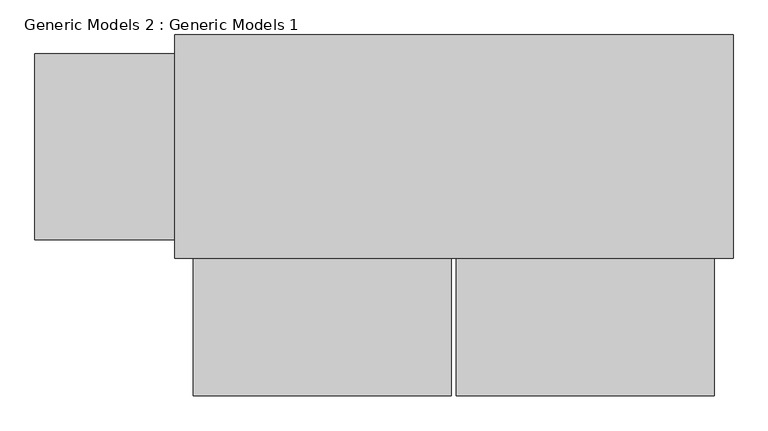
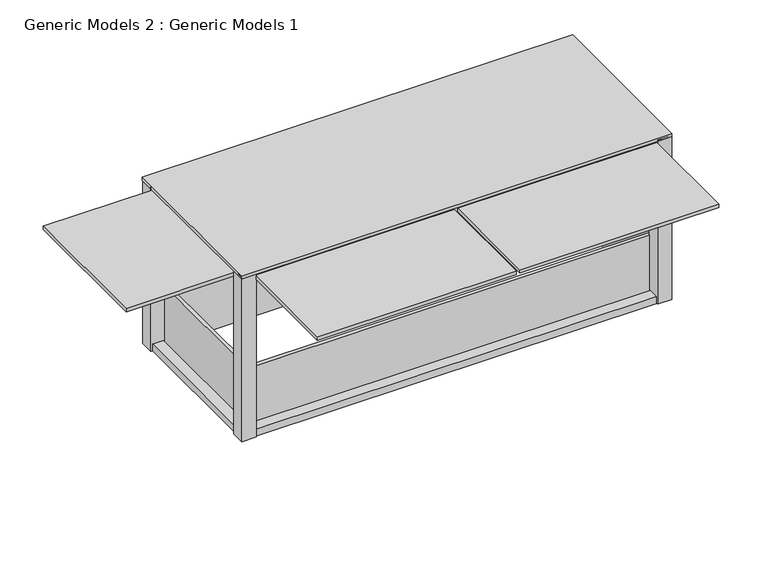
"""IFC4 building model written with IfcOpenShell, lengths in millimetres: proxy geometry, Generic Models 2 : Generic Models 1."""

from ifc_helpers import new_model, si_unit, frame, origin, place, context, project, spatial, polyline, outline, extrude, faceted_brep, source, transform, mapped, element, save


def generic_models_2_generic_models_1_28bb5d76(model_context):
    return source(origin(), model_context, "Body", "SolidModel", [
        extrude(outline(polyline([(123570.4561388, 141256.9393623), (123570.4561388, 138818.5393623), (117474.4561388, 138818.5393623), (117474.4561388, 141256.9393623), (123570.4561388, 141256.9393623)])), frame((0.0, 0.0, 5968.9941705), z_axis=(0.0, 0.0, 1.0), x_axis=(1.0, 0.0, 0.0)), (0.0, 0.0, 1.0), 50.8),
        extrude(outline(polyline([(115950.4561388, 141051.1292903), (117499.8561388, 141051.1292903), (117499.8561388, 139019.1292903), (115950.4561388, 139019.1292903), (115950.4561388, 141051.1292903)])), frame((0.0, 0.0, 5892.7941705), z_axis=(0.0, 0.0, 1.0), x_axis=(1.0, 0.0, 0.0)), (0.0, 0.0, 1.0), 50.8),
        extrude(outline(polyline([(120497.0561388, 138841.3292903), (120497.0561388, 137317.3292903), (117677.6561388, 137317.3292903), (117677.6561388, 138841.3292903), (120497.0561388, 138841.3292903)])), frame((0.0, 0.0, 5892.7941705), z_axis=(0.0, 0.0, 1.0), x_axis=(1.0, 0.0, 0.0)), (0.0, 0.0, 1.0), 50.8),
        extrude(outline(polyline([(120547.8561388, 138841.3292903), (123367.2561388, 138841.3292903), (123367.2561388, 137317.3292903), (120547.8561388, 137317.3292903), (120547.8561388, 138841.3292903)])), frame((0.0, 0.0, 5892.7941705), z_axis=(0.0, 0.0, 1.0), x_axis=(1.0, 0.0, 0.0)), (0.0, 0.0, 1.0), 50.8),
        extrude(outline(polyline([(117669.5063169, 139019.1292903), (117669.5063169, 141051.1292903), (117720.3063169, 141051.1292903), (117720.3063169, 139063.5792903), (123392.6561388, 139063.5792903), (123392.6561388, 139012.7792903), (117669.5063169, 139012.7792903), (117669.5063169, 139019.1292903)])), frame((0.0, 0.0, 3530.5941705), z_axis=(0.0, 0.0, 1.0), x_axis=(1.0, 0.0, 0.0)), (0.0, 0.0, 1.0), 914.4),
        extrude(outline(polyline([(123367.2561388, 138841.3292903), (117677.6561388, 138841.3292903), (117677.6561388, 138993.7292903), (123367.2561388, 138993.7292903), (123367.2561388, 138841.3292903)])), frame((0.0, 0.0, 5867.3941705), z_axis=(0.0, 0.0, 1.0), x_axis=(1.0, 0.0, 0.0)), (0.0, 0.0, 1.0), 114.3),
        extrude(outline(polyline([(123545.0561388, 139019.1292903), (123392.6561388, 139019.1292903), (123392.6561388, 141051.1292903), (123545.0561388, 141051.1292903), (123545.0561388, 139019.1292903)])), frame((0.0, 0.0, 3530.5941705), z_axis=(0.0, 0.0, 1.0), x_axis=(1.0, 0.0, 0.0)), (0.0, 0.0, 1.0), 2451.1),
        extrude(outline(polyline([(117677.6561388, 141228.9292903), (123367.2561388, 141228.9292903), (123367.2561388, 141076.5292903), (117677.6561388, 141076.5292903), (117677.6561388, 141228.9292903)])), frame((0.0, 0.0, 3530.5941705), z_axis=(0.0, 0.0, 1.0), x_axis=(1.0, 0.0, 0.0)), (0.0, 0.0, 1.0), 2451.1),
        extrude(outline(polyline([(117499.8561388, 141051.1292903), (117652.2561388, 141051.1292903), (117652.2561388, 139019.1292903), (117499.8561388, 139019.1292903), (117499.8561388, 141051.1292903)])), frame((0.0, 0.0, 5867.3941705), z_axis=(0.0, 0.0, 1.0), x_axis=(1.0, 0.0, 0.0)), (0.0, 0.0, 1.0), 114.3),
        extrude(outline(polyline([(123367.2561388, 138841.3292903), (117677.6561388, 138841.3292903), (117677.6561388, 138993.7292903), (123367.2561388, 138993.7292903), (123367.2561388, 138841.3292903)])), frame((0.0, 0.0, 3530.5941705), z_axis=(0.0, 0.0, 1.0), x_axis=(1.0, 0.0, 0.0)), (0.0, 0.0, 1.0), 101.6),
        extrude(outline(polyline([(117499.8561388, 141051.1292903), (117652.2561388, 141051.1292903), (117652.2561388, 139019.1292903), (117499.8561388, 139019.1292903), (117499.8561388, 141051.1292903)])), frame((0.0, 0.0, 3530.5941705), z_axis=(0.0, 0.0, 1.0), x_axis=(1.0, 0.0, 0.0)), (0.0, 0.0, 1.0), 101.6),
        faceted_brep([(117677.6561388, 138818.5393623, 5994.3941705), (117677.6561388, 139019.1292903, 5994.3941705), (117474.4561388, 139019.1292903, 5994.3941705), (117474.4561388, 138818.5393623, 5994.3941705), (117677.6561388, 138818.5393623, 3530.5941705), (117474.4561388, 138818.5393623, 3530.5941705), (117474.4561388, 139019.1292903, 3530.5941705), (117677.6561388, 139019.1292903, 3530.5941705), (117677.6561388, 139019.1292903, 5867.3941705), (117677.6561388, 139019.1292903, 3632.1941705)], [[[0, 1, 2, 3]], [[4, 5, 6, 7]], [[0, 3, 5, 4]], [[3, 2, 6, 5]], [[2, 1, 8, 9, 7, 6]], [[1, 0, 4, 7, 9, 8]]]),
        faceted_brep([(123570.4561388, 138818.5393623, 5994.3941705), (123570.4561388, 139019.1292903, 5994.3941705), (123367.2561388, 139019.1292903, 5994.3941705), (123367.2561388, 138818.5393623, 5994.3941705), (123570.4561388, 138818.5393623, 3530.5941705), (123367.2561388, 138818.5393623, 3530.5941705), (123367.2561388, 139019.1292903, 3530.5941705), (123570.4561388, 139019.1292903, 3530.5941705)], [[[0, 1, 2, 3]], [[4, 5, 6, 7]], [[0, 3, 5, 4]], [[3, 2, 6, 5]], [[2, 1, 7, 6]], [[1, 0, 4, 7]]]),
        faceted_brep([(117677.6561388, 141051.1292903, 5994.3941705), (117677.6561388, 141254.3292903, 5994.3941705), (117474.4561388, 141254.3292903, 5994.3941705), (117474.4561388, 141051.1292903, 5994.3941705), (117677.6561388, 141051.1292903, 3530.5941705), (117474.4561388, 141051.1292903, 3530.5941705), (117474.4561388, 141254.3292903, 3530.5941705), (117677.6561388, 141254.3292903, 3530.5941705), (117677.6561388, 141051.1292903, 3632.1941705), (117677.6561388, 141051.1292903, 5867.3941705)], [[[0, 1, 2, 3]], [[4, 5, 6, 7]], [[0, 3, 5, 4, 8, 9]], [[3, 2, 6, 5]], [[2, 1, 7, 6]], [[1, 0, 9, 8, 4, 7]]]),
        faceted_brep([(123570.4561388, 141051.1292903, 5994.3941705), (123570.4561388, 141254.3292903, 5994.3941705), (123367.2561388, 141254.3292903, 5994.3941705), (123367.2561388, 141051.1292903, 5994.3941705), (123570.4561388, 141051.1292903, 3530.5941705), (123367.2561388, 141051.1292903, 3530.5941705), (123367.2561388, 141254.3292903, 3530.5941705), (123570.4561388, 141254.3292903, 3530.5941705)], [[[0, 1, 2, 3]], [[4, 5, 6, 7]], [[0, 3, 5, 4]], [[3, 2, 6, 5]], [[2, 1, 7, 6]], [[1, 0, 4, 7]]]),
    ])


if __name__ == "__main__":
    model = new_model("IFC4")
    model_context = context("Model", 3, world=origin())
    ifc_project = project(units=[si_unit("LENGTHUNIT", "METRE", prefix="MILLI")], contexts=[model_context])
    site = spatial("IfcSite", under=ifc_project)
    building = spatial("IfcBuilding", under=site)
    placement = place(None, origin())
    generic_models_2_generic_models_1_shape = generic_models_2_generic_models_1_28bb5d76(model_context)
    element("IfcBuildingElementProxy", 1, Name="Generic Models 2 : Generic Models 1", ObjectType="Generic Models 2 : Generic Models 1", at=placement, inside=building, context=model_context, shape_type="MappedRepresentation", body=[
        mapped(generic_models_2_generic_models_1_shape, transform((0.0, 0.0, 0.0), x_axis=(1.0, 0.0, 0.0), y_axis=(0.0, 1.0, 0.0), z_axis=(0.0, 0.0, 1.0))),
    ])
    save(model, "model.ifc")
